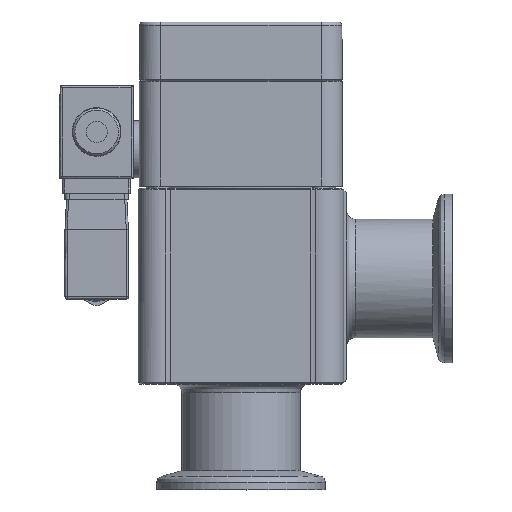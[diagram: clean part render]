
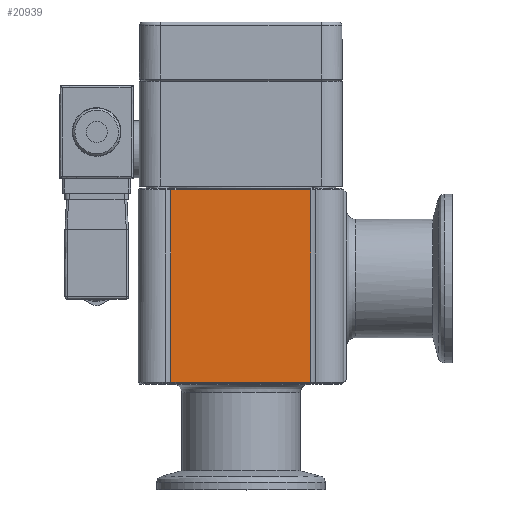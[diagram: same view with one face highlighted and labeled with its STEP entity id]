
A CAD part, top view. The second image highlights one B-rep face of the part: STEP entity #20939.
In plain terms, the highlighted free-form (B-spline) face has degree [1, 1] with [2, 2] control points.
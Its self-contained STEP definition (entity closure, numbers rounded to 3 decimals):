
#19166=CARTESIAN_POINT('V46',(16.532,67.9,
   24.0));
#19167=VERTEX_POINT('V46',#19166);
#19210=CARTESIAN_POINT('V44',(-16.532,67.9,
   24.));
#19211=VERTEX_POINT('V44',#19210);
#19212=CARTESIAN_POINT('E65',(16.532,67.9,
   24.));
#19213=CARTESIAN_POINT('E65',(-16.532,67.9,
   24.));
#19214=B_SPLINE_CURVE_WITH_KNOTS('E65',1,(#19212,#19213),
   .POLYLINE_FORM.,.F.,.U.,(2,2),(2.0,60.45),
   .UNSPECIFIED.);
#19215=EDGE_CURVE('E65',#19167,#19211,#19214,.T.);
#20893=CARTESIAN_POINT('V2',(16.532,22.4,
   24.0));
#20894=VERTEX_POINT('V2',#20893);
#20908=CARTESIAN_POINT('E70',(16.532,22.4,
   24.0));
#20909=CARTESIAN_POINT('E70',(16.532,67.9,
   24.0));
#20910=B_SPLINE_CURVE_WITH_KNOTS('E70',1,(#20908,#20909),
   .POLYLINE_FORM.,.F.,.U.,(2,2),(2.331,
   39.942),.UNSPECIFIED.);
#20911=EDGE_CURVE('E70',#20894,#19167,#20910,.T.);
#20918=CARTESIAN_POINT('F53',(-17.242,21.,
   24.0));
#20919=CARTESIAN_POINT('F53',(17.242,21.,
   24.));
#20920=CARTESIAN_POINT('F53',(-17.242,71.8,
   24.));
#20921=CARTESIAN_POINT('F53',(17.242,71.8,
   24.));
#20922=B_SPLINE_SURFACE_WITH_KNOTS('F53',1,1,((#20918,#20920),(
   #20919,#20921)),.PLANE_SURF.,.F.,.F.,.U.,(2,2),(2,2),(0.0,1.0),
   (0.696,2.169),.UNSPECIFIED.);
#20923=CARTESIAN_POINT('V6',(-16.532,22.4,
   24.));
#20924=VERTEX_POINT('V6',#20923);
#20925=CARTESIAN_POINT('E7',(-16.532,22.4,
   24.));
#20926=CARTESIAN_POINT('E7',(16.532,22.4,
   24.0));
#20927=B_SPLINE_CURVE_WITH_KNOTS('E7',1,(#20925,#20926),
   .POLYLINE_FORM.,.F.,.U.,(2,2),(2.0,60.45),
   .UNSPECIFIED.);
#20928=EDGE_CURVE('E7',#20924,#20894,#20927,.T.);
#20929=ORIENTED_EDGE('E7',*,*,#20928,.F.);
#20930=CARTESIAN_POINT('E71',(-16.532,67.9,
   24.));
#20931=CARTESIAN_POINT('E71',(-16.532,22.4,
   24.));
#20932=B_SPLINE_CURVE_WITH_KNOTS('E71',1,(#20930,#20931),
   .POLYLINE_FORM.,.F.,.U.,(2,2),(2.331,
   39.942),.UNSPECIFIED.);
#20933=EDGE_CURVE('E71',#19211,#20924,#20932,.T.);
#20934=ORIENTED_EDGE('E71',*,*,#20933,.F.);
#20935=ORIENTED_EDGE('E65',*,*,#19215,.F.);
#20936=ORIENTED_EDGE('E70',*,*,#20911,.F.);
#20937=EDGE_LOOP('F53',(#20929,#20934,#20935,#20936));
#20938=FACE_OUTER_BOUND('F53',#20937,.F.);
#20939=ADVANCED_FACE('F53',(#20938),#20922,.T.);
